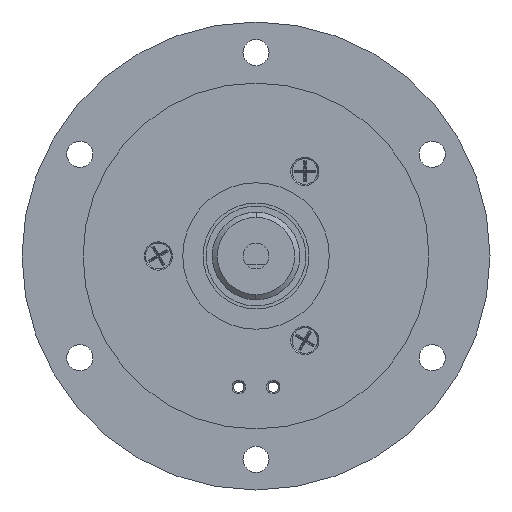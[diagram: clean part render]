
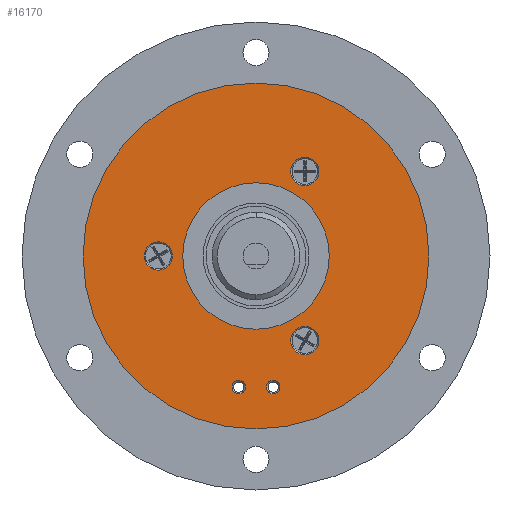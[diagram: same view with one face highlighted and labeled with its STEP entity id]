
A CAD part, left-side view. The second image highlights one B-rep face of the part: STEP entity #16170.
In plain terms, the highlighted planar face has unit normal (-1, 0, 0).
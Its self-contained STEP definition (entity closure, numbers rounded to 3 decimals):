
#111 = FACE_BOUND ( 'NONE', #4283, .T. ) ;
#122 = ORIENTED_EDGE ( 'NONE', *, *, #480, .F. ) ;
#300 = PLANE ( 'NONE',  #18114 ) ;
#480 = EDGE_CURVE ( 'NONE', #4550, #9740, #804, .T. ) ;
#589 = EDGE_LOOP ( 'NONE', ( #11372, #17787 ) ) ;
#804 = CIRCLE ( 'NONE', #4478, 1.65 ) ;
#839 = CARTESIAN_POINT ( 'NONE',  ( -3.572, 11.688, -23.79 ) ) ;
#1018 = DIRECTION ( 'NONE',  ( 1., 0., 0. ) ) ;
#1564 = CARTESIAN_POINT ( 'NONE',  ( -3.572, 47.688, -3.005 ) ) ;
#1712 = DIRECTION ( 'NONE',  ( 0., 0.5, 0.866 ) ) ;
#1781 = CARTESIAN_POINT ( 'NONE',  ( -3.572, 30.49, -30.793 ) ) ;
#1797 = AXIS2_PLACEMENT_3D ( 'NONE', #12821, #11368, #19078 ) ;
#1817 = EDGE_LOOP ( 'NONE', ( #15371, #1897 ) ) ;
#1897 = ORIENTED_EDGE ( 'NONE', *, *, #4614, .F. ) ;
#2079 = DIRECTION ( 'NONE',  ( 1., 0., 0. ) ) ;
#2293 = EDGE_CURVE ( 'NONE', #6476, #4665, #7558, .T. ) ;
#2600 = AXIS2_PLACEMENT_3D ( 'NONE', #8565, #10139, #5436 ) ;
#2675 = VERTEX_POINT ( 'NONE', #16525 ) ;
#2687 = CARTESIAN_POINT ( 'NONE',  ( -3.572, 11.688, 17.78 ) ) ;
#2963 = ORIENTED_EDGE ( 'NONE', *, *, #17298, .T. ) ;
#3235 = EDGE_CURVE ( 'NONE', #14589, #5020, #6584, .T. ) ;
#3465 = CIRCLE ( 'NONE', #15095, 3.47 ) ;
#3769 = EDGE_CURVE ( 'NONE', #10517, #11679, #17602, .T. ) ;
#3823 = DIRECTION ( 'NONE',  ( 0., 0.5, 0.866 ) ) ;
#3869 = ORIENTED_EDGE ( 'NONE', *, *, #17366, .F. ) ;
#3885 = EDGE_CURVE ( 'NONE', #16166, #2675, #10961, .T. ) ;
#3919 = CARTESIAN_POINT ( 'NONE',  ( -3.572, 49.423, 0. ) ) ;
#4269 = CARTESIAN_POINT ( 'NONE',  ( -3.572, 29.665, -32.222 ) ) ;
#4283 = EDGE_LOOP ( 'NONE', ( #4406, #2963 ) ) ;
#4307 = CARTESIAN_POINT ( 'NONE',  ( -3.572, 13.423, 20.785 ) ) ;
#4406 = ORIENTED_EDGE ( 'NONE', *, *, #12592, .T. ) ;
#4460 = DIRECTION ( 'NONE',  ( 0., -0.5, -0.866 ) ) ;
#4478 = AXIS2_PLACEMENT_3D ( 'NONE', #16197, #20483, #1712 ) ;
#4550 = VERTEX_POINT ( 'NONE', #19402 ) ;
#4614 = EDGE_CURVE ( 'NONE', #18161, #9404, #19562, .T. ) ;
#4665 = VERTEX_POINT ( 'NONE', #839 ) ;
#4946 = EDGE_LOOP ( 'NONE', ( #18880, #10733 ) ) ;
#4957 = CARTESIAN_POINT ( 'NONE',  ( -3.572, 21.181, -32.222 ) ) ;
#4968 = CARTESIAN_POINT ( 'NONE',  ( -3.572, 15.158, -17.78 ) ) ;
#5020 = VERTEX_POINT ( 'NONE', #2687 ) ;
#5056 = AXIS2_PLACEMENT_3D ( 'NONE', #7661, #10588, #12458 ) ;
#5114 = FACE_BOUND ( 'NONE', #14170, .T. ) ;
#5207 = FACE_BOUND ( 'NONE', #4946, .T. ) ;
#5355 = EDGE_LOOP ( 'NONE', ( #122, #12449 ) ) ;
#5374 = DIRECTION ( 'NONE',  ( -1., 0., 0. ) ) ;
#5436 = DIRECTION ( 'NONE',  ( 0., -0.5, -0.866 ) ) ;
#5797 = CARTESIAN_POINT ( 'NONE',  ( -3.572, 28.84, -33.651 ) ) ;
#5876 = CARTESIAN_POINT ( 'NONE',  ( -3.572, 49.423, 0. ) ) ;
#5978 = DIRECTION ( 'NONE',  ( -1., 0., 0. ) ) ;
#5991 = VERTEX_POINT ( 'NONE', #10636 ) ;
#6078 = CIRCLE ( 'NONE', #15367, 1.65 ) ;
#6173 = CIRCLE ( 'NONE', #6820, 18. ) ;
#6362 = FACE_BOUND ( 'NONE', #6484, .T. ) ;
#6421 = DIRECTION ( 'NONE',  ( -1., 0., 0. ) ) ;
#6471 = CARTESIAN_POINT ( 'NONE',  ( -3.572, 15.158, 23.79 ) ) ;
#6472 = ORIENTED_EDGE ( 'NONE', *, *, #3769, .F. ) ;
#6475 = CARTESIAN_POINT ( 'NONE',  ( -3.572, 62.229, -21.25 ) ) ;
#6476 = VERTEX_POINT ( 'NONE', #4968 ) ;
#6484 = EDGE_LOOP ( 'NONE', ( #6472, #3869 ) ) ;
#6584 = CIRCLE ( 'NONE', #18562, 3.47 ) ;
#6723 = CARTESIAN_POINT ( 'NONE',  ( -3.572, 46.673, 36.806 ) ) ;
#6820 = AXIS2_PLACEMENT_3D ( 'NONE', #18045, #1018, #8853 ) ;
#6957 = DIRECTION ( 'NONE',  ( -1., 0., 0. ) ) ;
#7121 = EDGE_CURVE ( 'NONE', #2675, #16166, #7344, .T. ) ;
#7344 = CIRCLE ( 'NONE', #19988, 3.47 ) ;
#7390 = DIRECTION ( 'NONE',  ( -1., 0., 0. ) ) ;
#7558 = CIRCLE ( 'NONE', #19206, 3.47 ) ;
#7661 = CARTESIAN_POINT ( 'NONE',  ( -3.572, 25.423, 0. ) ) ;
#7926 = VERTEX_POINT ( 'NONE', #11004 ) ;
#8565 = CARTESIAN_POINT ( 'NONE',  ( -3.572, 25.423, 0. ) ) ;
#8631 = EDGE_CURVE ( 'NONE', #9740, #4550, #6078, .T. ) ;
#8853 = DIRECTION ( 'NONE',  ( 0., -0.5, -0.866 ) ) ;
#9099 = ORIENTED_EDGE ( 'NONE', *, *, #7121, .F. ) ;
#9143 = CARTESIAN_POINT ( 'NONE',  ( -3.572, 25.423, 0. ) ) ;
#9404 = VERTEX_POINT ( 'NONE', #15937 ) ;
#9683 = AXIS2_PLACEMENT_3D ( 'NONE', #9143, #15679, #4460 ) ;
#9740 = VERTEX_POINT ( 'NONE', #12689 ) ;
#9898 = DIRECTION ( 'NONE',  ( 0., -0.5, -0.866 ) ) ;
#10139 = DIRECTION ( 'NONE',  ( 1., 0., 0. ) ) ;
#10300 = DIRECTION ( 'NONE',  ( 0., 0.5, 0.866 ) ) ;
#10386 = CARTESIAN_POINT ( 'NONE',  ( -3.572, 29.665, -32.222 ) ) ;
#10517 = VERTEX_POINT ( 'NONE', #1781 ) ;
#10565 = DIRECTION ( 'NONE',  ( 0., 0.5, 0.866 ) ) ;
#10588 = DIRECTION ( 'NONE',  ( 1., 0., 0. ) ) ;
#10636 = CARTESIAN_POINT ( 'NONE',  ( -3.572, 16.423, -15.588 ) ) ;
#10733 = ORIENTED_EDGE ( 'NONE', *, *, #14820, .F. ) ;
#10961 = CIRCLE ( 'NONE', #17263, 3.47 ) ;
#11004 = CARTESIAN_POINT ( 'NONE',  ( -3.572, 34.423, 15.588 ) ) ;
#11368 = DIRECTION ( 'NONE',  ( -1., 0., 0. ) ) ;
#11372 = ORIENTED_EDGE ( 'NONE', *, *, #2293, .F. ) ;
#11679 = VERTEX_POINT ( 'NONE', #5797 ) ;
#11744 = DIRECTION ( 'NONE',  ( 0., 0.5, 0.866 ) ) ;
#11901 = AXIS2_PLACEMENT_3D ( 'NONE', #10386, #16527, #11744 ) ;
#12449 = ORIENTED_EDGE ( 'NONE', *, *, #8631, .F. ) ;
#12458 = DIRECTION ( 'NONE',  ( 0., -0.5, -0.866 ) ) ;
#12592 = EDGE_CURVE ( 'NONE', #5991, #7926, #19363, .T. ) ;
#12689 = CARTESIAN_POINT ( 'NONE',  ( -3.572, 20.356, -33.651 ) ) ;
#12821 = CARTESIAN_POINT ( 'NONE',  ( -3.572, 13.423, -20.785 ) ) ;
#13134 = FACE_BOUND ( 'NONE', #5355, .T. ) ;
#13942 = DIRECTION ( 'NONE',  ( 0., 0.5, 0.866 ) ) ;
#13976 = DIRECTION ( 'NONE',  ( 0., 0.5, 0.866 ) ) ;
#14043 = DIRECTION ( 'NONE',  ( -1., 0., 0. ) ) ;
#14170 = EDGE_LOOP ( 'NONE', ( #9099, #14498 ) ) ;
#14436 = CIRCLE ( 'NONE', #1797, 3.47 ) ;
#14482 = FACE_BOUND ( 'NONE', #589, .T. ) ;
#14498 = ORIENTED_EDGE ( 'NONE', *, *, #3885, .F. ) ;
#14533 = EDGE_CURVE ( 'NONE', #4665, #6476, #14436, .T. ) ;
#14589 = VERTEX_POINT ( 'NONE', #6471 ) ;
#14820 = EDGE_CURVE ( 'NONE', #5020, #14589, #3465, .T. ) ;
#15095 = AXIS2_PLACEMENT_3D ( 'NONE', #17174, #14043, #13942 ) ;
#15367 = AXIS2_PLACEMENT_3D ( 'NONE', #4957, #6421, #19026 ) ;
#15371 = ORIENTED_EDGE ( 'NONE', *, *, #17958, .F. ) ;
#15679 = DIRECTION ( 'NONE',  ( 1., 0., 0. ) ) ;
#15937 = CARTESIAN_POINT ( 'NONE',  ( -3.572, 4.173, -36.806 ) ) ;
#16166 = VERTEX_POINT ( 'NONE', #1564 ) ;
#16170 = ADVANCED_FACE ( 'NONE', ( #6362, #13134, #5114, #5207, #14482, #17621, #111 ), #300, .F. ) ;
#16197 = CARTESIAN_POINT ( 'NONE',  ( -3.572, 21.181, -32.222 ) ) ;
#16325 = CIRCLE ( 'NONE', #9683, 42.5 ) ;
#16525 = CARTESIAN_POINT ( 'NONE',  ( -3.572, 51.158, 3.005 ) ) ;
#16527 = DIRECTION ( 'NONE',  ( -1., 0., 0. ) ) ;
#16695 = DIRECTION ( 'NONE',  ( -1., 0., 0. ) ) ;
#17000 = CIRCLE ( 'NONE', #19996, 1.65 ) ;
#17174 = CARTESIAN_POINT ( 'NONE',  ( -3.572, 13.423, 20.785 ) ) ;
#17263 = AXIS2_PLACEMENT_3D ( 'NONE', #3919, #5374, #3823 ) ;
#17298 = EDGE_CURVE ( 'NONE', #7926, #5991, #6173, .T. ) ;
#17366 = EDGE_CURVE ( 'NONE', #11679, #10517, #17000, .T. ) ;
#17602 = CIRCLE ( 'NONE', #11901, 1.65 ) ;
#17621 = FACE_OUTER_BOUND ( 'NONE', #1817, .T. ) ;
#17787 = ORIENTED_EDGE ( 'NONE', *, *, #14533, .F. ) ;
#17958 = EDGE_CURVE ( 'NONE', #9404, #18161, #16325, .T. ) ;
#18045 = CARTESIAN_POINT ( 'NONE',  ( -3.572, 25.423, 0. ) ) ;
#18114 = AXIS2_PLACEMENT_3D ( 'NONE', #6475, #2079, #9898 ) ;
#18161 = VERTEX_POINT ( 'NONE', #6723 ) ;
#18562 = AXIS2_PLACEMENT_3D ( 'NONE', #4307, #5978, #10565 ) ;
#18880 = ORIENTED_EDGE ( 'NONE', *, *, #3235, .F. ) ;
#19026 = DIRECTION ( 'NONE',  ( 0., 0.5, 0.866 ) ) ;
#19078 = DIRECTION ( 'NONE',  ( 0., 0.5, 0.866 ) ) ;
#19206 = AXIS2_PLACEMENT_3D ( 'NONE', #20092, #6957, #10300 ) ;
#19363 = CIRCLE ( 'NONE', #5056, 18. ) ;
#19402 = CARTESIAN_POINT ( 'NONE',  ( -3.572, 22.006, -30.793 ) ) ;
#19562 = CIRCLE ( 'NONE', #2600, 42.5 ) ;
#19988 = AXIS2_PLACEMENT_3D ( 'NONE', #5876, #16695, #13976 ) ;
#19995 = DIRECTION ( 'NONE',  ( 0., 0.5, 0.866 ) ) ;
#19996 = AXIS2_PLACEMENT_3D ( 'NONE', #4269, #7390, #19995 ) ;
#20092 = CARTESIAN_POINT ( 'NONE',  ( -3.572, 13.423, -20.785 ) ) ;
#20483 = DIRECTION ( 'NONE',  ( -1., 0., 0. ) ) ;
